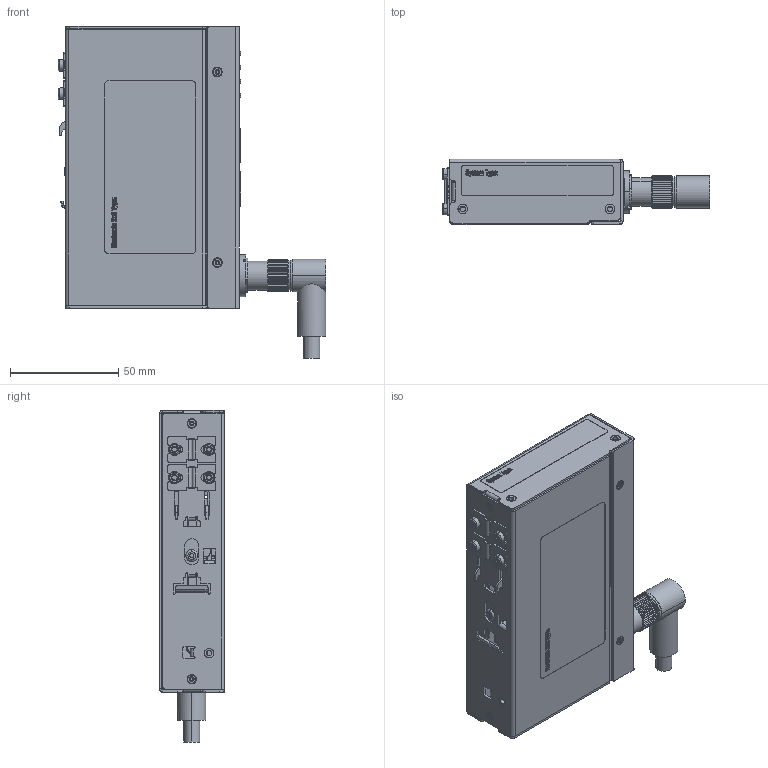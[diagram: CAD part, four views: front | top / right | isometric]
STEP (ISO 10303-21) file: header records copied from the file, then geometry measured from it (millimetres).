
FILE_DESCRIPTION((''),'2;1');
FILE_NAME('HUELLE_SW0001','2020-03-13T08:39:38',('scheu-1'),(''),'CREO PARAMETRIC BY PTC INC, 2018260','CREO PARAMETRIC BY PTC INC, 2018260','');
FILE_SCHEMA(('CONFIG_CONTROL_DESIGN'));
Products named in the file (1): HUELLE_SW0001
Bounding box: 123.4 x 30.2 x 153.2 mm (x, y, z)
Volume: 68952.9 mm3; surface area: 103965.2 mm2
Topology: 1 solids, 13 shells, 4801 faces, 13430 edges, 8639 vertices
Faces by surface type: plane 2865, cylinder 1319, extrusion 245, bspline 152, cone 102, torus 72, sphere 46
Entity records: 176747 total; most frequent: CARTESIAN_POINT 52898, ORIENTED_EDGE 26768, DIRECTION 24354, EDGE_CURVE 13384, VECTOR 9478, LINE 9233, VERTEX_POINT 8640, AXIS2_PLACEMENT_3D 7438
